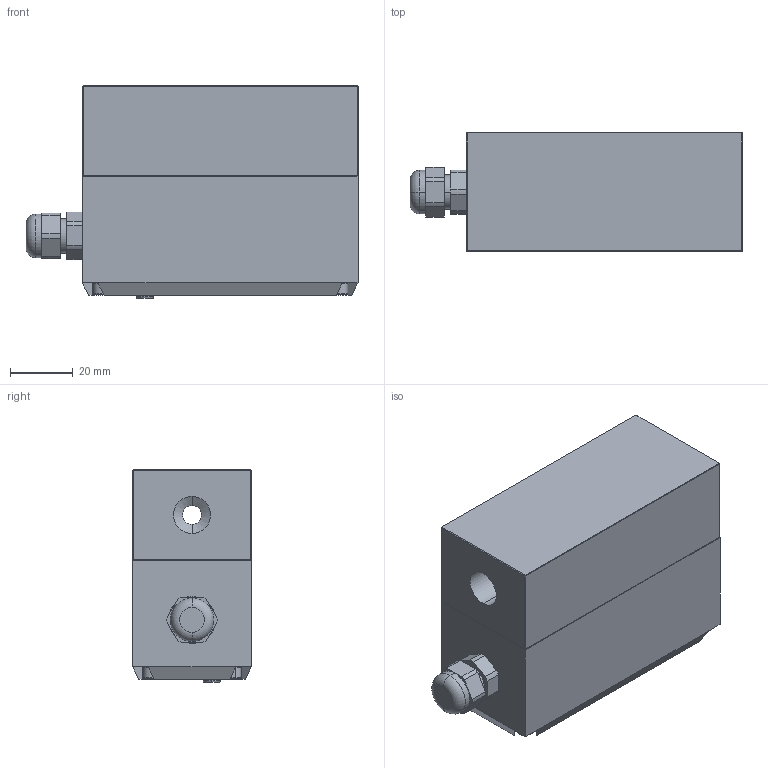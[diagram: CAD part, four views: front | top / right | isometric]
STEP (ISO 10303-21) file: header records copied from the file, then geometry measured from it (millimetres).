
FILE_DESCRIPTION (( 'STEP AP203' ), '1' );
FILE_NAME ('重庆捷定力MF606 流量计3D图示 step.STEP', '2023-07-17T05:07:22', ( '微软用户' ), ( '微软中国' ), 'SwSTEP 2.0', 'SolidWorks 2016', '' );
FILE_SCHEMA (( 'CONFIG_CONTROL_DESIGN' ));
Length unit declared in the file: millimetre
Products named in the file (4): 重庆捷定力MF606 流量计3D图示 step; MF600 珆尨耀輸; MF606 菁釱; M3蹟邡
Assembly tree (6 placements, depth 2):
  重庆捷定力MF606 流量计3D图示 step
    MF600 珆尨耀輸
    MF606 菁釱
    M3蹟邡  x4
Bounding box: 106 x 38 x 68 mm (x, y, z)
Volume: 217044.4 mm3; surface area: 34616.6 mm2
Topology: 6 solids, 6 shells, 538 faces, 1411 edges, 916 vertices
Faces by surface type: plane 312, bspline 147, cylinder 47, torus 20, cone 12
Entity records: 21521 total; most frequent: CARTESIAN_POINT 9997, ORIENTED_EDGE 2570, DIRECTION 1759, EDGE_CURVE 1285, VECTOR 903, LINE 903, VERTEX_POINT 838, EDGE_LOOP 505
